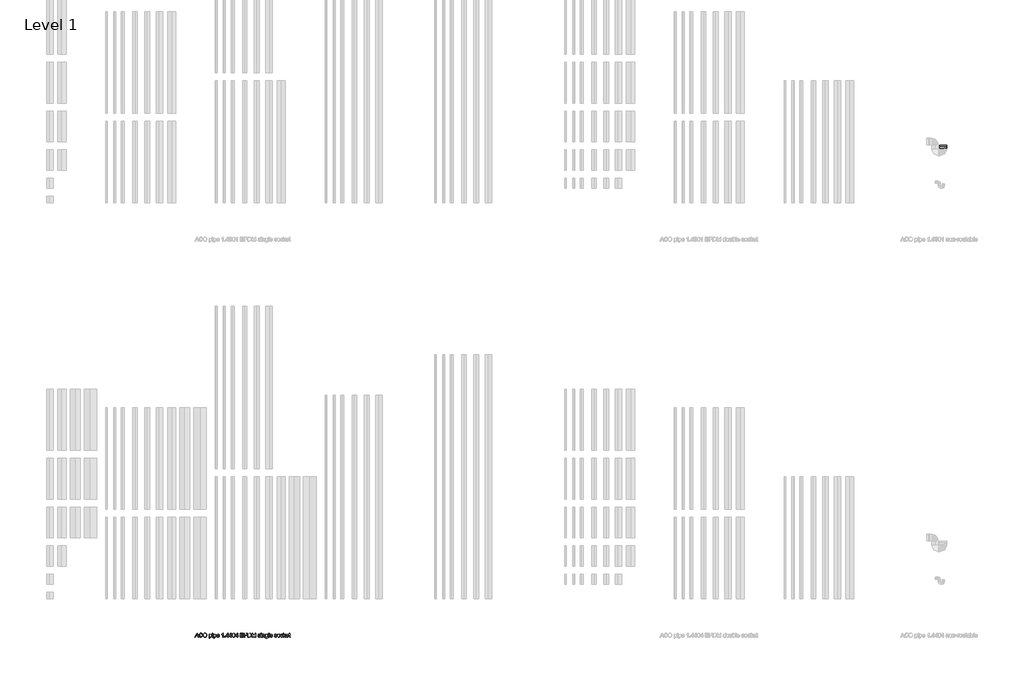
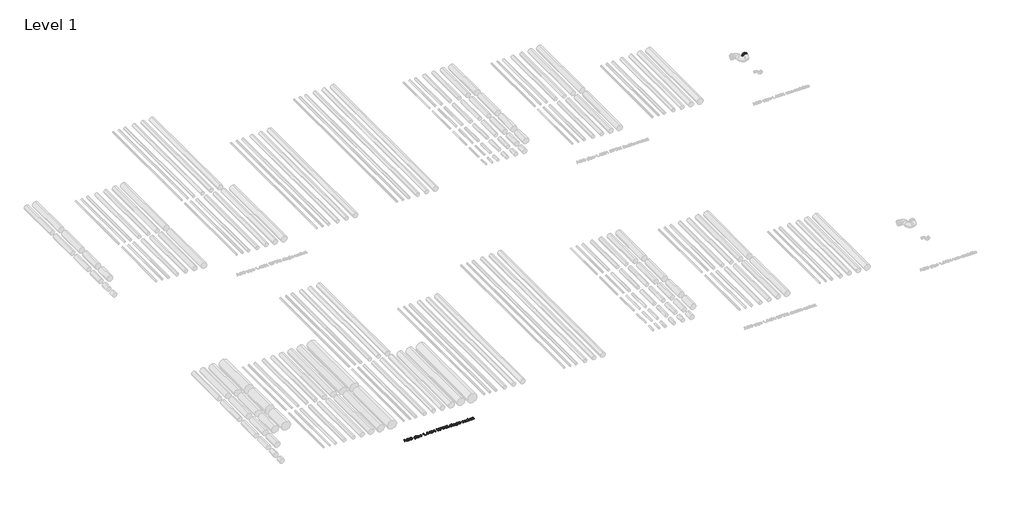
# One storey, part 9 of 13: 1 pipe fitting, 1 proxy.
"""IFC4 building model written with IfcOpenShell, lengths in millimetres."""

from ifc_helpers import new_model, si_unit, origin, origin_with_axes, place, context, project, spatial, polyline, outline, extrude, transform, mapped, element, save
from components import std_nested_4988e8d9

model = new_model("IFC4")

# Units and contexts
model_context = context("Model", 3, world=origin())
ifc_project = project(units=[si_unit("LENGTHUNIT", "METRE", prefix="MILLI")], contexts=[model_context])

# Site, building, storey
site = spatial("IfcSite", under=ifc_project)
building = spatial("IfcBuilding", under=site)
storey = spatial("IfcBuildingStorey", under=building, Name="Level 1", Elevation=0.0)

# Proxy
placement = place(None, origin())
element("IfcBuildingElementProxy", 1, Name="100mm ACO", ObjectType="100mm ACO", at=placement, inside=storey, context=model_context, shape_type="SweptSolid", body=[
    extrude(outline(polyline([(3288.8757357, -10719.2114353), (3275.0736524, -10719.2114353), (3263.0944857, -10689.5818057), (3220.6465691, -10689.5818057), (3209.1303654, -10719.2114353), (3195.3572172, -10719.2114353), (3234.2171709, -10619.2114353), (3248.3954116, -10619.2114353), (3288.8757357, -10719.2114353)]), holes=[polyline([(3258.5805968, -10678.4706946), (3244.156407, -10641.8098149), (3241.1905505, -10630.1489353), (3236.5319857, -10648.7253242), (3224.9868468, -10678.4706946), (3258.5805968, -10678.4706946)])]), origin_with_axes(), (0.0, 0.0, 1.0), 10.0),
    extrude(outline(polyline([(3382.8572172, -10687.3827316), (3376.9435887, -10702.2083971), (3367.8253885, -10712.7154862), (3356.0379174, -10718.9763369), (3342.1164765, -10721.0632872), (3321.2108052, -10717.2076737), (3306.8734209, -10705.6408335), (3298.5834904, -10688.648646), (3295.8201802, -10668.5169909), (3299.0645378, -10647.1302721), (3308.7976107, -10630.9446529), (3323.63051, -10620.7558508), (3342.1743468, -10617.3595835), (3355.4881489, -10619.1716494), (3366.7258515, -10624.6078473), (3375.3955563, -10633.5379689), (3381.0053654, -10645.8318057), (3368.0424024, -10648.8410649), (3358.1899718, -10633.5777548), (3341.6824487, -10628.4706946), (3327.4608052, -10631.1797513), (3317.1454116, -10639.3069214), (3310.8737103, -10651.9913832), (3308.7831431, -10668.3723149), (3310.9966848, -10686.7353068), (3317.6373098, -10699.6946529), (3327.8369626, -10707.3877953), (3340.7275876, -10709.9521761), (3351.296164, -10708.3354226), (3359.6801339, -10703.4851622), (3365.8794973, -10695.3869272), (3369.8942542, -10684.0262501), (3382.8572172, -10687.3827316)])), origin_with_axes(), (0.0, 0.0, 1.0), 10.0),
    extrude(outline(polyline([(3442.203282, -10617.3595835), (3460.6928654, -10620.9330788), (3475.478745, -10631.6535649), (3485.1792658, -10648.2261923), (3488.4127728, -10669.3561112), (3485.1611813, -10690.3956078), (3475.406407, -10706.8705788), (3460.6024429, -10717.5151101), (3442.203282, -10721.0632872), (3423.3303075, -10717.3849017), (3408.5516616, -10706.3497455), (3399.0030505, -10690.0194504), (3395.8201802, -10670.4556483), (3399.0464533, -10648.3744851), (3408.7252728, -10631.5522918), (3423.5473214, -10620.9077605), (3442.203282, -10617.3595835)]), holes=[polyline([(3442.0875413, -10709.9521761), (3455.5279348, -10707.2684376), (3466.1616154, -10699.2172223), (3473.098826, -10686.3844677), (3475.4498098, -10669.3561112), (3473.0952091, -10651.9479804), (3466.031407, -10639.0754399), (3455.4013434, -10631.1218809), (3442.3479579, -10628.4706946), (3429.0016038, -10631.0676274), (3418.2449487, -10638.8584261), (3411.1485945, -10652.0167015), (3408.7831431, -10670.7160649), (3411.0979579, -10686.5978647), (3418.0424024, -10699.1159492), (3428.6833167, -10707.2431193), (3442.0875413, -10709.9521761)])]), origin_with_axes(), (0.0, 0.0, 1.0), 10.0),
    extrude(outline(polyline([(3557.0614996, -10655.6987038), (3565.5178075, -10647.7776969), (3577.1859209, -10645.1373612), (3589.5123098, -10647.7270603), (3598.9451802, -10655.4961575), (3604.9347635, -10667.4246876), (3606.9312913, -10682.4926853), (3604.6743468, -10698.3817189), (3597.9035135, -10710.6321529), (3587.8485366, -10718.4555036), (3575.7391616, -10721.0632872), (3565.3658978, -10718.9365511), (3557.2785135, -10712.5563427), (3556.9312913, -10746.9892131), (3543.9683283, -10746.9892131), (3543.9683283, -10646.9892131), (3556.9312913, -10646.9892131), (3557.0614996, -10655.6987038)]), holes=[polyline([(3574.3213376, -10711.8040279), (3582.0940517, -10709.9774943), (3588.3983052, -10704.4978936), (3592.5758225, -10695.4013948), (3593.9683283, -10682.7241668), (3592.6264591, -10670.6473439), (3588.6008515, -10661.7316899), (3582.4846767, -10656.2303879), (3574.8711061, -10654.3966205), (3566.989885, -10656.4401679), (3560.6494626, -10662.5708103), (3556.4719452, -10671.956661), (3555.0794394, -10683.7658335), (3556.4140748, -10695.8788254), (3560.4179811, -10704.6715048), (3566.563091, -10710.0208971), (3574.3213376, -10711.8040279)])]), origin_with_axes(), (0.0, 0.0, 1.0), 10.0),
    extrude(outline(polyline([(3634.7090691, -10719.2114353), (3621.7461061, -10719.2114353), (3621.7461061, -10646.9892131), (3634.7090691, -10646.9892131), (3634.7090691, -10719.2114353)])), origin_with_axes(), (0.0, 0.0, 1.0), 10.0),
    extrude(outline(polyline([(3634.7090691, -10632.1743983), (3621.7461061, -10632.1743983), (3621.7461061, -10619.2114353), (3634.7090691, -10619.2114353), (3634.7090691, -10632.1743983)])), origin_with_axes(), (0.0, 0.0, 1.0), 10.0),
    extrude(outline(polyline([(3666.3207589, -10655.6987038), (3674.7770667, -10647.7776969), (3686.4451802, -10645.1373612), (3698.7715691, -10647.7270603), (3708.2044394, -10655.4961575), (3714.1940228, -10667.4246876), (3716.1905505, -10682.4926853), (3713.9336061, -10698.3817189), (3707.1627728, -10710.6321529), (3697.1077959, -10718.4555036), (3684.9984209, -10721.0632872), (3674.625157, -10718.9365511), (3666.5377728, -10712.5563427), (3666.1905505, -10746.9892131), (3653.2275876, -10746.9892131), (3653.2275876, -10646.9892131), (3666.1905505, -10646.9892131), (3666.3207589, -10655.6987038)]), holes=[polyline([(3683.5805968, -10711.8040279), (3691.353311, -10709.9774943), (3697.6575644, -10704.4978936), (3701.8350818, -10695.4013948), (3703.2275876, -10682.7241668), (3701.8857184, -10670.6473439), (3697.8601107, -10661.7316899), (3691.743936, -10656.2303879), (3684.1303654, -10654.3966205), (3676.2491443, -10656.4401679), (3669.9087218, -10662.5708103), (3665.7312045, -10671.956661), (3664.3386987, -10683.7658335), (3665.6733341, -10695.8788254), (3669.6772404, -10704.6715048), (3675.8223503, -10710.0208971), (3683.5805968, -10711.8040279)])]), origin_with_axes(), (0.0, 0.0, 1.0), 10.0),
    extrude(outline(polyline([(3793.9683283, -10685.878102), (3740.2646246, -10685.878102), (3742.3371073, -10697.0036807), (3747.0499255, -10705.1489353), (3753.8316096, -10710.1402548), (3762.1106894, -10711.8040279), (3773.7860366, -10708.1147918), (3781.0053654, -10696.9892131), (3793.9683283, -10698.4938427), (3789.5918816, -10708.1147918), (3782.6546709, -10715.2183798), (3773.4098792, -10719.6020603), (3762.1106894, -10721.0632872), (3747.5237392, -10718.5567767), (3736.5175181, -10711.0372455), (3729.6056258, -10699.1774365), (3727.3016616, -10683.6500927), (3729.5224371, -10668.1118983), (3736.1847635, -10655.8144446), (3746.8835482, -10647.8066321), (3761.2136987, -10645.1373612), (3776.4336061, -10648.5951159), (3788.8612681, -10660.3717362), (3792.6915633, -10670.9077605), (3793.9683283, -10685.878102)]), holes=[polyline([(3781.0053654, -10676.6188427), (3778.922032, -10666.4625927), (3774.1766616, -10659.6049538), (3760.8954116, -10654.3966205), (3753.0395089, -10655.9446529), (3746.7171709, -10660.5887501), (3740.2646246, -10676.6188427), (3781.0053654, -10676.6188427)])]), origin_with_axes(), (0.0, 0.0, 1.0), 10.0),
    extrude(outline(polyline([(3892.1164765, -10719.2114353), (3879.1535135, -10719.2114353), (3879.1535135, -10641.4336575), (3855.0794394, -10656.2484723), (3855.0794394, -10646.9892131), (3873.3520089, -10635.2704631), (3884.7090691, -10621.0632872), (3892.1164765, -10621.0632872), (3892.1164765, -10719.2114353)])), origin_with_axes(), (0.0, 0.0, 1.0), 10.0),
    extrude(outline(polyline([(3943.9683283, -10719.2114353), (3929.1535135, -10719.2114353), (3929.1535135, -10704.3966205), (3943.9683283, -10704.3966205), (3943.9683283, -10719.2114353)])), origin_with_axes(), (0.0, 0.0, 1.0), 10.0),
    extrude(outline(polyline([(4025.4498098, -10695.1373612), (4012.4868468, -10695.1373612), (4012.4868468, -10719.2114353), (3999.5238839, -10719.2114353), (3999.5238839, -10695.1373612), (3956.9312913, -10695.1373612), (3956.9312913, -10685.878102), (4001.8386987, -10621.0632872), (4012.4868468, -10621.0632872), (4012.4868468, -10685.878102), (4025.4498098, -10685.878102), (4025.4498098, -10695.1373612)]), holes=[polyline([(3999.5238839, -10685.878102), (3999.5238839, -10639.9868983), (3967.7530505, -10685.878102), (3999.5238839, -10685.878102)])]), origin_with_axes(), (0.0, 0.0, 1.0), 10.0),
    extrude(outline(polyline([(4103.2275876, -10695.1373612), (4090.2646246, -10695.1373612), (4090.2646246, -10719.2114353), (4077.3016616, -10719.2114353), (4077.3016616, -10695.1373612), (4034.7090691, -10695.1373612), (4034.7090691, -10685.878102), (4079.6164765, -10621.0632872), (4090.2646246, -10621.0632872), (4090.2646246, -10685.878102), (4103.2275876, -10685.878102), (4103.2275876, -10695.1373612)]), holes=[polyline([(4077.3016616, -10685.878102), (4077.3016616, -10639.9868983), (4045.5308283, -10685.878102), (4077.3016616, -10685.878102)])]), origin_with_axes(), (0.0, 0.0, 1.0), 10.0),
    extrude(outline(polyline([(4149.4949487, -10619.2114353), (4164.0909412, -10622.3979226), (4174.5166501, -10631.9573844), (4180.7720754, -10647.8898207), (4182.8572172, -10670.1952316), (4180.7015459, -10692.6670198), (4174.234532, -10708.5198844), (4163.7382936, -10717.9274365), (4149.4949487, -10721.0632872), (4134.9242745, -10717.8840337), (4124.5166501, -10708.3462733), (4118.2720754, -10692.4500059), (4116.1905505, -10670.1952316), (4118.3462218, -10647.7270603), (4124.8132357, -10631.8271761), (4135.2950066, -10622.3653705), (4149.4949487, -10619.2114353)]), holes=[polyline([(4149.5238839, -10711.8040279), (4158.3635829, -10709.3698554), (4164.7437913, -10702.0673381), (4168.6066385, -10689.2309666), (4169.8942542, -10670.1952316), (4167.6373098, -10645.9764816), (4160.8230737, -10632.8109723), (4149.3792079, -10628.4706946), (4140.5575934, -10630.9482698), (4134.2316385, -10638.3809955), (4130.4230448, -10651.289705), (4129.1535135, -10670.1952316), (4131.4538607, -10694.2548381), (4138.2680968, -10707.4637501), (4149.5238839, -10711.8040279)])]), origin_with_axes(), (0.0, 0.0, 1.0), 10.0),
    extrude(outline(polyline([(4258.7831431, -10695.1373612), (4245.8201802, -10695.1373612), (4245.8201802, -10719.2114353), (4232.8572172, -10719.2114353), (4232.8572172, -10695.1373612), (4190.2646246, -10695.1373612), (4190.2646246, -10685.878102), (4235.172032, -10621.0632872), (4245.8201802, -10621.0632872), (4245.8201802, -10685.878102), (4258.7831431, -10685.878102), (4258.7831431, -10695.1373612)]), holes=[polyline([(4232.8572172, -10685.878102), (4232.8572172, -10639.9868983), (4201.0863839, -10685.878102), (4232.8572172, -10685.878102)])]), origin_with_axes(), (0.0, 0.0, 1.0), 10.0),
    extrude(outline(polyline([(4390.2646246, -10719.2114353), (4316.1905505, -10719.2114353), (4316.1905505, -10619.2114353), (4388.4127728, -10619.2114353), (4388.4127728, -10630.3225464), (4329.1535135, -10630.3225464), (4329.1535135, -10661.8040279), (4384.7090691, -10661.8040279), (4384.7090691, -10672.915139), (4329.1535135, -10672.915139), (4329.1535135, -10708.1003242), (4390.2646246, -10708.1003242), (4390.2646246, -10719.2114353)])), origin_with_axes(), (0.0, 0.0, 1.0), 10.0),
    extrude(outline(polyline([(4408.7831431, -10619.2114353), (4446.3410135, -10619.2114353), (4461.6477265, -10620.0939585), (4473.5690228, -10624.6801853), (4481.8878885, -10634.7351622), (4484.7090691, -10648.0308798), (4482.4846767, -10660.4621587), (4475.8114996, -10670.1518288), (4464.2338086, -10676.3909781), (4447.2958746, -10678.4706946), (4421.7461061, -10678.4706946), (4421.7461061, -10719.2114353), (4408.7831431, -10719.2114353), (4408.7831431, -10619.2114353)]), holes=[polyline([(4421.7461061, -10667.3595835), (4447.8167079, -10667.3595835), (4465.7637566, -10662.6214469), (4470.2505187, -10656.6987762), (4471.7461061, -10648.4070372), (4468.6355737, -10637.4261344), (4460.9966848, -10631.4944214), (4447.5273561, -10630.3225464), (4421.7461061, -10630.3225464), (4421.7461061, -10667.3595835)])]), origin_with_axes(), (0.0, 0.0, 1.0), 10.0),
    extrude(outline(polyline([(4501.3757357, -10619.2114353), (4535.4035135, -10619.2114353), (4550.797032, -10620.1373612), (4563.1234209, -10624.6367825), (4573.4098792, -10634.4892131), (4580.3398561, -10648.9134029), (4582.8572172, -10668.6616668), (4580.2675181, -10688.7969388), (4572.4984209, -10704.9897918), (4558.4142195, -10715.6560244), (4536.8792079, -10719.2114353), (4501.3757357, -10719.2114353), (4501.3757357, -10619.2114353)]), holes=[polyline([(4514.3386987, -10708.1003242), (4535.6639302, -10708.1003242), (4547.3103422, -10707.2612038), (4557.7125413, -10702.7328473), (4566.4364996, -10690.6379399), (4569.8942542, -10668.3723149), (4568.5632357, -10654.0783335), (4563.6731894, -10641.9689585), (4555.4989996, -10633.9683798), (4546.500157, -10630.8723149), (4535.2588376, -10630.3225464), (4514.3386987, -10630.3225464), (4514.3386987, -10708.1003242)])]), origin_with_axes(), (0.0, 0.0, 1.0), 10.0),
    extrude(outline(polyline([(4693.9683283, -10719.2114353), (4681.0053654, -10719.2114353), (4681.0053654, -10635.415139), (4655.484532, -10719.2114353), (4641.7113839, -10719.2114353), (4614.7148561, -10634.0551853), (4614.3386987, -10719.2114353), (4601.3757357, -10719.2114353), (4601.3757357, -10619.2114353), (4621.0805968, -10619.2114353), (4643.9104579, -10690.0737038), (4648.3375413, -10704.8885186), (4653.3433283, -10688.8584261), (4674.697495, -10619.2114353), (4693.9683283, -10619.2114353), (4693.9683283, -10719.2114353)])), origin_with_axes(), (0.0, 0.0, 1.0), 10.0),
    extrude(outline(polyline([(4793.9683283, -10667.3595835), (4789.1795552, -10657.6373612), (4778.1118468, -10654.3966205), (4766.7981894, -10657.1743983), (4762.4868468, -10665.2473149), (4765.3369626, -10672.3943057), (4778.7773561, -10676.2716205), (4796.500157, -10680.4382872), (4805.5424024, -10686.7606251), (4808.7831431, -10698.0887501), (4806.7721478, -10707.0188717), (4800.7391616, -10714.4226622), (4791.3424603, -10719.4031309), (4779.2403191, -10721.0632872), (4766.7656373, -10719.6671645), (4757.3508515, -10715.4787964), (4750.9887276, -10708.5054168), (4747.672032, -10698.7542594), (4760.634995, -10696.9892131), (4766.2339533, -10708.1147918), (4779.2403191, -10711.8040279), (4791.5377728, -10707.9701159), (4795.8201802, -10698.6385186), (4793.8959904, -10692.6634029), (4789.0927496, -10689.2924538), (4775.5076802, -10686.3989353), (4754.5730737, -10678.5864353), (4749.5238839, -10665.9996298), (4751.3938202, -10657.7133161), (4757.0036292, -10651.0256714), (4765.7746073, -10646.6094388), (4777.1280505, -10645.1373612), (4789.0601975, -10646.424977), (4798.0047866, -10650.2878242), (4803.9618179, -10656.7186691), (4806.9312913, -10665.7102779), (4793.9683283, -10667.3595835)])), origin_with_axes(), (0.0, 0.0, 1.0), 10.0),
    extrude(outline(polyline([(4834.7090691, -10632.1743983), (4821.7461061, -10632.1743983), (4821.7461061, -10619.2114353), (4834.7090691, -10619.2114353), (4834.7090691, -10632.1743983)])), origin_with_axes(), (0.0, 0.0, 1.0), 10.0),
    extrude(outline(polyline([(4834.7090691, -10719.2114353), (4821.7461061, -10719.2114353), (4821.7461061, -10646.9892131), (4834.7090691, -10646.9892131), (4834.7090691, -10719.2114353)])), origin_with_axes(), (0.0, 0.0, 1.0), 10.0),
    extrude(outline(polyline([(4912.4868468, -10719.2114353), (4899.5238839, -10719.2114353), (4899.5238839, -10674.2461575), (4895.6610366, -10658.6500927), (4884.9116154, -10654.3966205), (4874.8855737, -10657.1165279), (4868.1726107, -10664.784352), (4866.1905505, -10678.7889816), (4866.1905505, -10719.2114353), (4853.2275876, -10719.2114353), (4853.2275876, -10646.9892131), (4864.3386987, -10646.9892131), (4864.3386987, -10657.0297223), (4874.234532, -10648.1032177), (4887.4868468, -10645.1373612), (4898.8583746, -10647.1917594), (4907.6546709, -10653.3404862), (4911.6621941, -10662.0789122), (4912.4868468, -10674.6223149), (4912.4868468, -10719.2114353)])), origin_with_axes(), (0.0, 0.0, 1.0), 10.0),
    extrude(outline(polyline([(4990.2646246, -10708.5632872), (4987.2119626, -10731.2050696), (4976.3468005, -10742.837014), (4957.6836061, -10746.9892131), (4946.4676049, -10745.5822397), (4937.2987681, -10741.3613196), (4931.1898272, -10733.9358277), (4929.1535135, -10722.915139), (4942.1164765, -10724.9695372), (4946.6882357, -10734.5326159), (4957.8861524, -10737.7299538), (4971.1963376, -10734.0407177), (4976.3612681, -10725.0563427), (4977.3016616, -10710.4440742), (4968.5270667, -10717.019595), (4957.7125413, -10719.2114353), (4945.3210482, -10716.6000348), (4935.634995, -10708.7658335), (4929.384995, -10696.9530441), (4927.3016616, -10682.4058798), (4929.2837218, -10667.7646761), (4935.2299024, -10655.7855094), (4944.6772404, -10647.7993983), (4957.1627728, -10645.1373612), (4968.2377149, -10647.5172802), (4977.041245, -10654.6570372), (4977.3016616, -10646.9892131), (4990.2646246, -10646.9892131), (4990.2646246, -10708.5632872)]), holes=[polyline([(4959.6511987, -10709.9521761), (4966.8632936, -10708.3462733), (4973.2218005, -10703.5285649), (4977.6705853, -10694.9348149), (4979.1535135, -10682.0007872), (4977.7393063, -10670.2133161), (4973.4966848, -10661.5291436), (4967.1707299, -10656.1797513), (4959.5065228, -10654.3966205), (4951.7844452, -10656.2231541), (4945.6321015, -10661.7027548), (4941.6064938, -10670.357992), (4940.2646246, -10681.7114353), (4941.671598, -10694.4284492), (4945.8925181, -10703.1813427), (4952.146135, -10708.2594677), (4959.6511987, -10709.9521761)])]), origin_with_axes(), (0.0, 0.0, 1.0), 10.0),
    extrude(outline(polyline([(5021.7461061, -10719.2114353), (5008.7831431, -10719.2114353), (5008.7831431, -10619.2114353), (5021.7461061, -10619.2114353), (5021.7461061, -10719.2114353)])), origin_with_axes(), (0.0, 0.0, 1.0), 10.0),
    extrude(outline(polyline([(5103.2275876, -10685.878102), (5049.5238839, -10685.878102), (5051.5963665, -10697.0036807), (5056.3091848, -10705.1489353), (5063.0908688, -10710.1402548), (5071.3699487, -10711.8040279), (5083.0452959, -10708.1147918), (5090.2646246, -10696.9892131), (5103.2275876, -10698.4938427), (5098.8511408, -10708.1147918), (5091.9139302, -10715.2183798), (5082.6691385, -10719.6020603), (5071.3699487, -10721.0632872), (5056.7829985, -10718.5567767), (5045.7767774, -10711.0372455), (5038.864885, -10699.1774365), (5036.5609209, -10683.6500927), (5038.7816964, -10668.1118983), (5045.4440228, -10655.8144446), (5056.1428075, -10647.8066321), (5070.4729579, -10645.1373612), (5085.6928654, -10648.5951159), (5098.1205274, -10660.3717362), (5101.9508225, -10670.9077605), (5103.2275876, -10685.878102)]), holes=[polyline([(5090.2646246, -10676.6188427), (5088.1812913, -10666.4625927), (5083.4359209, -10659.6049538), (5070.1546709, -10654.3966205), (5062.2987681, -10655.9446529), (5055.9764302, -10660.5887501), (5049.5238839, -10676.6188427), (5090.2646246, -10676.6188427)])]), origin_with_axes(), (0.0, 0.0, 1.0), 10.0),
    extrude(outline(polyline([(5197.672032, -10667.3595835), (5192.8832589, -10657.6373612), (5181.8155505, -10654.3966205), (5170.5018931, -10657.1743983), (5166.1905505, -10665.2473149), (5169.0406663, -10672.3943057), (5182.4810598, -10676.2716205), (5200.2038607, -10680.4382872), (5209.2461061, -10686.7606251), (5212.4868468, -10698.0887501), (5210.4758515, -10707.0188717), (5204.4428654, -10714.4226622), (5195.046164, -10719.4031309), (5182.9440228, -10721.0632872), (5170.469341, -10719.6671645), (5161.0545552, -10715.4787964), (5154.6924313, -10708.5054168), (5151.3757357, -10698.7542594), (5164.3386987, -10696.9892131), (5169.937657, -10708.1147918), (5182.9440228, -10711.8040279), (5195.2414765, -10707.9701159), (5199.5238839, -10698.6385186), (5197.5996941, -10692.6634029), (5192.7964533, -10689.2924538), (5179.2113839, -10686.3989353), (5158.2767774, -10678.5864353), (5153.2275876, -10665.9996298), (5155.0975239, -10657.7133161), (5160.7073329, -10651.0256714), (5169.478311, -10646.6094388), (5180.8317542, -10645.1373612), (5192.7639012, -10646.424977), (5201.7084904, -10650.2878242), (5207.6655216, -10656.7186691), (5210.634995, -10665.7102779), (5197.672032, -10667.3595835)])), origin_with_axes(), (0.0, 0.0, 1.0), 10.0),
    extrude(outline(polyline([(5255.0505042, -10645.1373612), (5268.2268642, -10647.5317478), (5278.9364996, -10654.7149075), (5286.0437045, -10666.310683), (5288.4127728, -10681.9429168), (5285.848392, -10700.2154862), (5278.1552496, -10712.2091205), (5267.2503017, -10718.8497455), (5255.0505042, -10721.0632872), (5242.4600818, -10718.7882582), (5231.656407, -10711.9631714), (5224.2236813, -10700.1974017), (5221.7461061, -10683.1003242), (5224.1404927, -10666.383021), (5231.3236524, -10654.5412964), (5242.0441385, -10647.488345), (5255.0505042, -10645.1373612)]), holes=[polyline([(5255.0505042, -10711.8040279), (5263.8576512, -10709.7966494), (5270.2559441, -10703.774514), (5275.4498098, -10682.6373612), (5273.9813491, -10670.3543751), (5269.5759672, -10661.5146761), (5263.0076802, -10656.1761344), (5255.0505042, -10654.3966205), (5246.9378017, -10656.2014527), (5240.4237681, -10661.6159492), (5236.1377438, -10670.6039411), (5234.7090691, -10683.1292594), (5236.1630621, -10695.6111749), (5240.5250413, -10704.5846992), (5247.0643931, -10709.9991957), (5255.0505042, -10711.8040279)])]), origin_with_axes(), (0.0, 0.0, 1.0), 10.0),
    extrude(outline(polyline([(5364.3386987, -10694.7612038), (5360.3094741, -10706.5667594), (5353.140782, -10714.7264816), (5343.8164186, -10719.4790858), (5333.3201802, -10721.0632872), (5319.0044973, -10718.4735881), (5308.3491154, -10710.7044909), (5301.7301917, -10698.66022), (5299.5238839, -10683.2450001), (5304.5586061, -10660.5598149), (5317.1598792, -10648.5951159), (5333.0597635, -10645.1373612), (5352.5186755, -10650.7941899), (5359.0544105, -10657.7784203), (5362.4868468, -10667.4174538), (5349.5238839, -10669.2114353), (5343.6211061, -10658.1147918), (5333.2044394, -10654.3966205), (5324.2489996, -10656.2810244), (5317.7530505, -10661.9342362), (5313.8033978, -10670.9656309), (5312.4868468, -10682.9845835), (5313.8070147, -10695.2133161), (5317.7675181, -10704.2953473), (5324.2164475, -10709.9268578), (5333.0018931, -10711.8040279), (5345.6031663, -10707.1743983), (5351.3757357, -10693.2855094), (5364.3386987, -10694.7612038)])), origin_with_axes(), (0.0, 0.0, 1.0), 10.0),
    extrude(outline(polyline([(5432.8572172, -10719.2114353), (5419.9810598, -10719.2114353), (5393.8815228, -10681.2484723), (5384.7090691, -10689.5818057), (5384.7090691, -10719.2114353), (5371.7461061, -10719.2114353), (5371.7461061, -10619.2114353), (5384.7090691, -10619.2114353), (5384.7090691, -10675.2010186), (5415.6986524, -10646.9892131), (5431.4683283, -10646.9892131), (5401.7808283, -10674.0146761), (5432.8572172, -10719.2114353)])), origin_with_axes(), (0.0, 0.0, 1.0), 10.0),
    extrude(outline(polyline([(5503.2275876, -10685.878102), (5449.5238839, -10685.878102), (5451.5963665, -10697.0036807), (5456.3091848, -10705.1489353), (5463.0908688, -10710.1402548), (5471.3699487, -10711.8040279), (5483.0452959, -10708.1147918), (5490.2646246, -10696.9892131), (5503.2275876, -10698.4938427), (5498.8511408, -10708.1147918), (5491.9139302, -10715.2183798), (5482.6691385, -10719.6020603), (5471.3699487, -10721.0632872), (5456.7829985, -10718.5567767), (5445.7767774, -10711.0372455), (5438.864885, -10699.1774365), (5436.5609209, -10683.6500927), (5438.7816964, -10668.1118983), (5445.4440228, -10655.8144446), (5456.1428075, -10647.8066321), (5470.4729579, -10645.1373612), (5485.6928654, -10648.5951159), (5498.1205274, -10660.3717362), (5501.9508225, -10670.9077605), (5503.2275876, -10685.878102)]), holes=[polyline([(5490.2646246, -10676.6188427), (5488.1812913, -10666.4625927), (5483.4359209, -10659.6049538), (5470.1546709, -10654.3966205), (5462.2987681, -10655.9446529), (5455.9764302, -10660.5887501), (5449.5238839, -10676.6188427), (5490.2646246, -10676.6188427)])]), origin_with_axes(), (0.0, 0.0, 1.0), 10.0),
    extrude(outline(polyline([(5545.8201802, -10720.2241668), (5536.734532, -10721.0632872), (5525.1459904, -10718.1842362), (5520.7044394, -10710.878102), (5519.8942542, -10698.5517131), (5519.8942542, -10656.2484723), (5510.634995, -10656.2484723), (5510.634995, -10646.9892131), (5519.8942542, -10646.9892131), (5519.8942542, -10628.6443057), (5532.8572172, -10621.0632872), (5532.8572172, -10646.9892131), (5543.9683283, -10646.9892131), (5543.9683283, -10656.2484723), (5532.8572172, -10656.2484723), (5532.8572172, -10701.1558798), (5533.8988839, -10709.3734723), (5539.1940228, -10711.8040279), (5544.228745, -10711.8040279), (5545.8201802, -10720.2241668)])), origin_with_axes(), (0.0, 0.0, 1.0), 10.0),
])

# Pipe fitting
std_nested_shape = std_nested_4988e8d9(model_context)
element("IfcPipeFitting", 2, ObjectType="ZZZ_do not use_PIF_ST_UN_ACO pipe socket_ACO : std (nested)", at=placement, inside=storey, context=model_context, shape_type="MappedRepresentation", body=[
    mapped(std_nested_shape, transform((21621.7461061, 1323.7885647, 0.0), x_axis=(0.0, 1.0, 0.0), y_axis=(1.0, 0.0, 0.0), z_axis=(0.0, 0.0, -1.0))),
])

save(model, "model.ifc")
